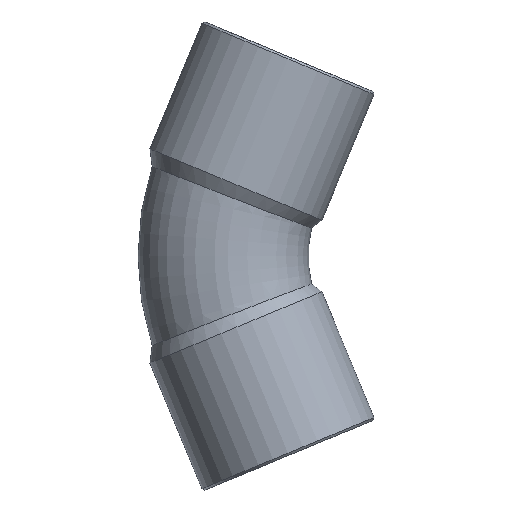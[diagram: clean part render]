
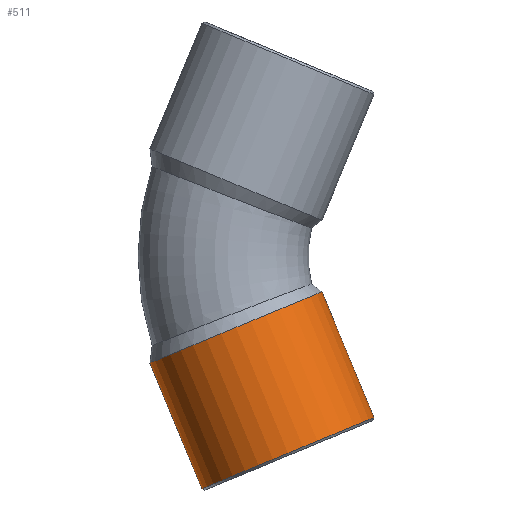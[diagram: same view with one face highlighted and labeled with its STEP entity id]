
A CAD part, front view. The second image highlights one B-rep face of the part: STEP entity #511.
In plain terms, the highlighted cylindrical face has radius 8.2 mm (diameter 16.4 mm), a partial arc.
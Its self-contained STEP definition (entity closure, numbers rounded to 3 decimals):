
#201=CARTESIAN_POINT('',(-20.017,0.,-9.432));
#202=VERTEX_POINT('',#201);
#209=CARTESIAN_POINT('',(-4.865,0.,-3.156));
#210=VERTEX_POINT('',#209);
#211=CARTESIAN_POINT('',(-12.441,0.,-6.294));
#212=DIRECTION('',(-0.383,0.,0.924));
#213=DIRECTION('',(0.924,0.,0.383));
#214=AXIS2_PLACEMENT_3D('',#211,#212,#213);
#215=CIRCLE('',#214,8.2);
#216=EDGE_CURVE('',#202,#210,#215,.T.);
#480=CARTESIAN_POINT('',(-12.369,0.,-6.467));
#481=DIRECTION('',(0.383,0.,-0.924));
#482=DIRECTION('',(0.924,0.,0.383));
#483=AXIS2_PLACEMENT_3D('',#480,#481,#482);
#484=CYLINDRICAL_SURFACE('',#483,8.2);
#485=CARTESIAN_POINT('',(-0.278,0.,-14.231));
#486=VERTEX_POINT('',#485);
#487=CARTESIAN_POINT('',(-4.865,0.,-3.156));
#488=DIRECTION('',(0.383,0.,-0.924));
#489=VECTOR('',#488,11.988);
#490=LINE('',#487,#489);
#491=EDGE_CURVE('',#210,#486,#490,.T.);
#492=ORIENTED_EDGE('',*,*,#491,.F.);
#493=ORIENTED_EDGE('',*,*,#216,.F.);
#494=CARTESIAN_POINT('',(-15.429,0.,-20.507));
#495=VERTEX_POINT('',#494);
#496=CARTESIAN_POINT('',(-15.429,0.,-20.507));
#497=DIRECTION('',(-0.383,0.,0.924));
#498=VECTOR('',#497,11.988);
#499=LINE('',#496,#498);
#500=EDGE_CURVE('',#495,#202,#499,.T.);
#501=ORIENTED_EDGE('',*,*,#500,.F.);
#502=CARTESIAN_POINT('',(-7.854,0.,-17.369));
#503=DIRECTION('',(0.383,0.,-0.924));
#504=DIRECTION('',(0.924,0.,0.383));
#505=AXIS2_PLACEMENT_3D('',#502,#503,#504);
#506=CIRCLE('',#505,8.2);
#507=EDGE_CURVE('',#486,#495,#506,.T.);
#508=ORIENTED_EDGE('',*,*,#507,.F.);
#509=EDGE_LOOP('',(#492,#493,#501,#508));
#510=FACE_OUTER_BOUND('',#509,.T.);
#511=ADVANCED_FACE('',(#510),#484,.T.);
